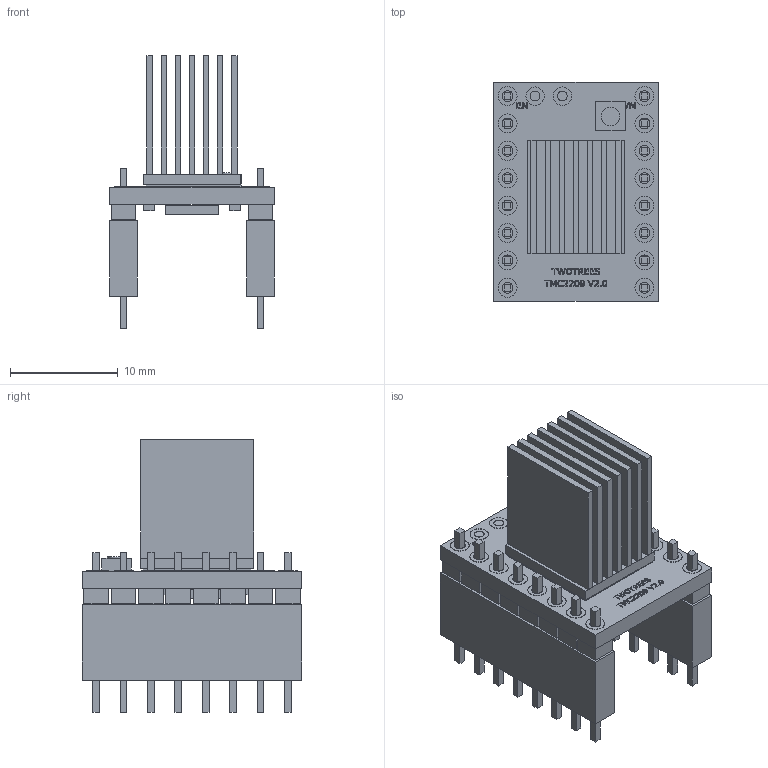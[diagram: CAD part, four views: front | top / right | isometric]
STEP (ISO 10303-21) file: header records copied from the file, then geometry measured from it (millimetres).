
FILE_DESCRIPTION(('Open CASCADE Model'),'2;1');
FILE_NAME('Open CASCADE Shape Model','2026-10-26T15:13:02',('Author'),( 'Open CASCADE'),'Open CASCADE STEP processor 7.8','Open CASCADE 7.8' ,'Unknown');
FILE_SCHEMA(('AUTOMOTIVE_DESIGN { 1 0 10303 214 1 1 1 1 }'));
Length unit declared in the file: millimetre
Products named in the file (100): TWOTREES_TMC2209_V20_COM_DISSIPADOR; pin_1; pad_1; header_spacer_1; pin_2; pad_2; header_spacer_2; pin_3; pad_3; header_spacer_3; pin_4; pad_4; header_spacer_4; pin_5; pad_5; header_spacer_5; pin_6; pad_6; header_spacer_6; pin_7; pad_7; header_spacer_7; pin_8; pad_8; header_spacer_8; pin_9; pad_9; header_spacer_9; pin_10; pad_10; header_spacer_10; pin_11; pad_11; header_spacer_11; pin_12; pad_12; header_spacer_12; pin_13; pad_13; header_spacer_13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
Assembly tree (99 placements, depth 3):
  TWOTREES_TMC2209_V20_COM_DISSIPADOR
    pin_1
    pad_1
    header_spacer_1
    pin_2
    pad_2
    header_spacer_2
    pin_3
    pad_3
    header_spacer_3
    pin_4
    pad_4
    header_spacer_4
    pin_5
    pad_5
    header_spacer_5
    pin_6
    pad_6
    header_spacer_6
    pin_7
    pad_7
    header_spacer_7
    pin_8
    pad_8
    header_spacer_8
    pin_9
    pad_9
    header_spacer_9
    pin_10
    pad_10
    header_spacer_10
    pin_11
    pad_11
    header_spacer_11
    pin_12
    pad_12
    header_spacer_12
    pin_13
    pad_13
    header_spacer_13
    pin_14
    pad_14
    header_spacer_14
    pin_15
    pad_15
    header_spacer_15
    pin_16
    pad_16
    header_spacer_16
    PCB_15p24x20p32
    thermal_copper
    thermal_adhesive
    heatsink_base
    heatsink_fin_0
    heatsink_fin_1
    heatsink_fin_2
    heatsink_fin_3
    heatsink_fin_4
    heatsink_fin_5
    heatsink_fin_6
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Bounding box: 15.24 x 20.32 x 25.32 mm (x, y, z)
Volume: 1910.3 mm3; surface area: 5473.1 mm2
Topology: 117 solids, 117 shells, 983 faces, 2247 edges, 1498 vertices
Faces by surface type: plane 758, extrusion 172, cylinder 53
Full cylindrical faces by diameter (mm): 0.9 x2, 1 x32, 1.7 x3, 1.76 x16
Entity records: 59398 total; most frequent: CARTESIAN_POINT 11362, DIRECTION 7993, VECTOR 5885, LINE 5713, ORIENTED_EDGE 4494, PCURVE 4494, DEFINITIONAL_REPRESENTATION 4494, EDGE_CURVE 2247
